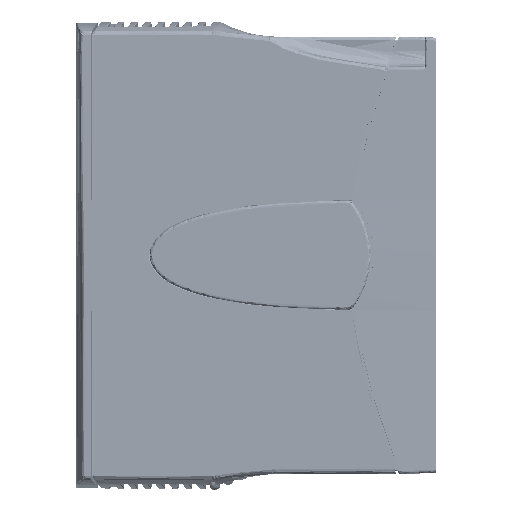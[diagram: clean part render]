
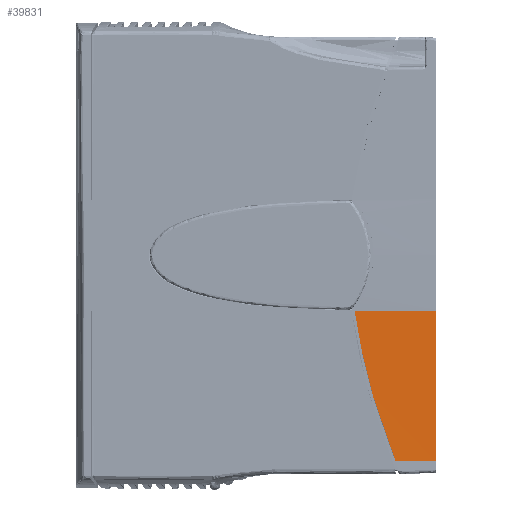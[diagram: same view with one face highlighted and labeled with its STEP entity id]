
A CAD part, top view. The second image highlights one B-rep face of the part: STEP entity #39831.
In plain terms, the highlighted free-form (B-spline) face has degree [3, 1] with [9, 2] control points.
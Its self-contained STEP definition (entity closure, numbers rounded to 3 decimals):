
#785=B_SPLINE_SURFACE_WITH_KNOTS('',3,1,((#488622,#488623),(#488624,#488625),
(#488626,#488627),(#488628,#488629),(#488630,#488631),(#488632,#488633),
(#488634,#488635),(#488636,#488637),(#488638,#488639)),.UNSPECIFIED.,.F.,
 .F.,.F.,(4,2,3,4),(2,2),(0.,26.185,52.37,
52.893),(0.,49.452),.UNSPECIFIED.);
#39831=ADVANCED_FACE('',(#54876),#785,.T.);
#54876=FACE_OUTER_BOUND('',#70244,.T.);
#70244=EDGE_LOOP('',(#101092,#101093,#101094,#101095));
#101092=ORIENTED_EDGE('',*,*,#174958,.F.);
#101093=ORIENTED_EDGE('',*,*,#174785,.F.);
#101094=ORIENTED_EDGE('',*,*,#174694,.F.);
#101095=ORIENTED_EDGE('',*,*,#174782,.T.);
#174694=EDGE_CURVE('',#271548,#271549,#257414,.T.);
#174782=EDGE_CURVE('',#271548,#271647,#223067,.T.);
#174785=EDGE_CURVE('',#271549,#271652,#223070,.T.);
#174958=EDGE_CURVE('',#271652,#271647,#223172,.T.);
#223067=B_SPLINE_CURVE_WITH_KNOTS('',3,(#495548,#495549,#495550,#495551),
 .UNSPECIFIED.,.F.,.F.,(4,4),(0.,0.013),.UNSPECIFIED.);
#223070=B_SPLINE_CURVE_WITH_KNOTS('',1,(#495558,#495559),.UNSPECIFIED.,
 .F.,.F.,(2,2),(-27.181,0.),.UNSPECIFIED.);
#223172=B_SPLINE_CURVE_WITH_KNOTS('',3,(#496454,#496455,#496456,#496457),
 .UNSPECIFIED.,.F.,.F.,(4,4),(-0.05,0.),.UNSPECIFIED.);
#257414=(
BOUNDED_CURVE()
B_SPLINE_CURVE(2,(#495050,#495051,#495052),.UNSPECIFIED.,.F.,.F.)
B_SPLINE_CURVE_WITH_KNOTS((3,3),(-0.052,0.),.UNSPECIFIED.)
CURVE()
GEOMETRIC_REPRESENTATION_ITEM()
RATIONAL_B_SPLINE_CURVE((1.,0.992,1.))
REPRESENTATION_ITEM('')
);
#271548=VERTEX_POINT('',#493766);
#271549=VERTEX_POINT('',#493767);
#271647=VERTEX_POINT('',#493865);
#271652=VERTEX_POINT('',#493870);
#488622=CARTESIAN_POINT('',(12.756,64.064,69.093));
#488623=CARTESIAN_POINT('',(62.192,64.06,67.798));
#488624=CARTESIAN_POINT('',(14.005,55.433,69.093));
#488625=CARTESIAN_POINT('',(63.44,55.427,67.798));
#488626=CARTESIAN_POINT('',(15.783,46.878,69.093));
#488627=CARTESIAN_POINT('',(65.218,46.87,67.798));
#488628=CARTESIAN_POINT('',(20.372,30.049,69.093));
#488629=CARTESIAN_POINT('',(69.807,30.039,67.798));
#488630=CARTESIAN_POINT('',(23.182,21.776,69.093));
#488631=CARTESIAN_POINT('',(72.618,21.764,67.798));
#488632=CARTESIAN_POINT('',(26.488,13.705,69.093));
#488633=CARTESIAN_POINT('',(75.924,13.692,67.798));
#488634=CARTESIAN_POINT('',(26.554,13.544,69.093));
#488635=CARTESIAN_POINT('',(75.99,13.53,67.798));
#488636=CARTESIAN_POINT('',(26.62,13.383,69.093));
#488637=CARTESIAN_POINT('',(76.056,13.369,67.798));
#488638=CARTESIAN_POINT('',(26.687,13.221,69.093));
#488639=CARTESIAN_POINT('',(76.122,13.207,67.798));
#493766=CARTESIAN_POINT('',(42.993,13.638,68.661));
#493767=CARTESIAN_POINT('',(29.235,64.063,68.661));
#493865=CARTESIAN_POINT('',(56.407,13.634,68.31));
#493870=CARTESIAN_POINT('',(56.407,64.06,67.95));
#495050=CARTESIAN_POINT('',(42.993,13.638,68.661));
#495051=CARTESIAN_POINT('',(33.005,38.002,68.661));
#495052=CARTESIAN_POINT('',(29.235,64.063,68.661));
#495548=CARTESIAN_POINT('',(42.993,13.638,68.661));
#495549=CARTESIAN_POINT('',(47.464,13.636,68.544));
#495550=CARTESIAN_POINT('',(51.935,13.635,68.427));
#495551=CARTESIAN_POINT('',(56.407,13.634,68.31));
#495558=CARTESIAN_POINT('',(29.235,64.063,68.661));
#495559=CARTESIAN_POINT('',(56.407,64.06,67.95));
#496454=CARTESIAN_POINT('',(56.407,64.06,67.95));
#496455=CARTESIAN_POINT('',(56.407,47.251,68.013));
#496456=CARTESIAN_POINT('',(56.407,30.442,68.13));
#496457=CARTESIAN_POINT('',(56.407,13.634,68.31));
